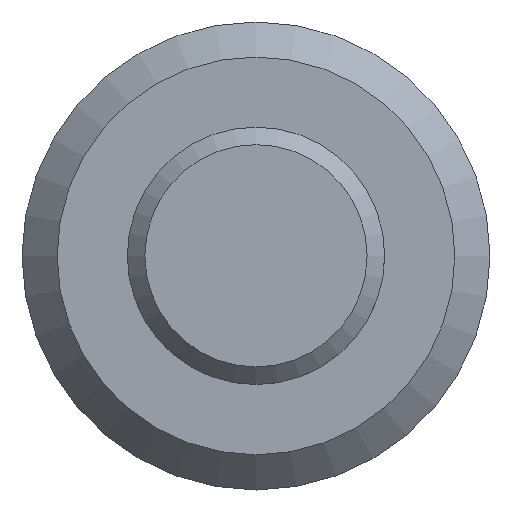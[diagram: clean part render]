
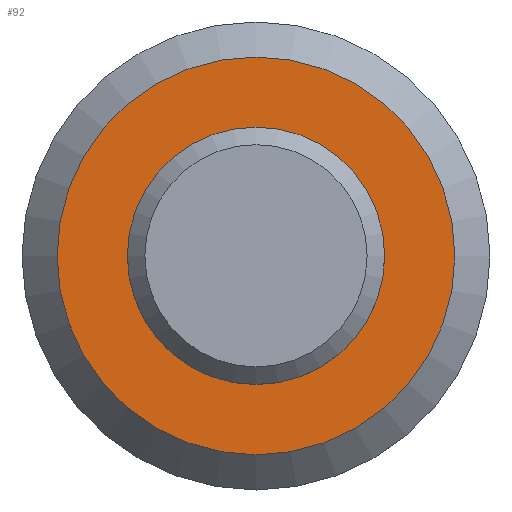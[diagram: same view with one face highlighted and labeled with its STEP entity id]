
A CAD part, top view. The second image highlights one B-rep face of the part: STEP entity #92.
In plain terms, the highlighted planar face has unit normal (0, 0, 1).
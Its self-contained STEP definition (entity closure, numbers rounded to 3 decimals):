
#15=FACE_BOUND('',#33,.T.);
#17=PLANE('',#118);
#25=FACE_OUTER_BOUND('',#32,.T.);
#32=EDGE_LOOP('',(#79));
#33=EDGE_LOOP('',(#80));
#46=CIRCLE('',#113,11.);
#48=CIRCLE('',#117,17.);
#52=VERTEX_POINT('',#162);
#54=VERTEX_POINT('',#169);
#59=EDGE_CURVE('',#52,#52,#46,.T.);
#63=EDGE_CURVE('',#54,#54,#48,.T.);
#79=ORIENTED_EDGE('',*,*,#63,.F.);
#80=ORIENTED_EDGE('',*,*,#59,.T.);
#92=ADVANCED_FACE('',(#25,#15),#17,.F.);
#113=AXIS2_PLACEMENT_3D('',#163,#133,#134);
#117=AXIS2_PLACEMENT_3D('',#171,#143,#144);
#118=AXIS2_PLACEMENT_3D('',#172,#145,#146);
#133=DIRECTION('center_axis',(0.,0.,-1.));
#134=DIRECTION('ref_axis',(1.,0.,0.));
#143=DIRECTION('center_axis',(0.,0.,-1.));
#144=DIRECTION('ref_axis',(1.,0.,0.));
#145=DIRECTION('center_axis',(0.,0.,-1.));
#146=DIRECTION('ref_axis',(1.,0.,0.));
#162=CARTESIAN_POINT('',(-106.,95.,-21.));
#163=CARTESIAN_POINT('Origin',(-95.,95.,-21.));
#169=CARTESIAN_POINT('',(-112.,95.,-21.));
#171=CARTESIAN_POINT('Origin',(-95.,95.,-21.));
#172=CARTESIAN_POINT('Origin',(-95.,95.,-21.));
